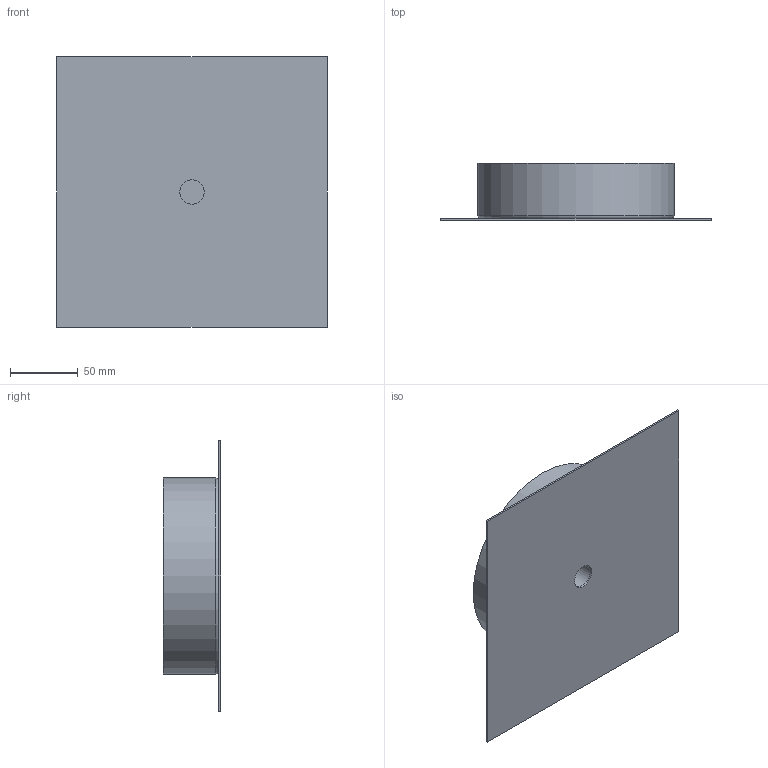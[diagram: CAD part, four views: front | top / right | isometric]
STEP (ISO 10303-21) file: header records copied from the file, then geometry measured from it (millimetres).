
FILE_DESCRIPTION(/* description */ (''),/* implementation_level */ '2;1');
FILE_NAME(/* name */ 'C:\Users\Giulia\Desktop\1740 - NULLA PL.stp',/* time_stamp */ '2015-04-23T17:38:30+02:00',/* author */ ('Giulia'),/* organization */ (''),/* preprocessor_version */ 'ST-DEVELOPER v15.6',/* originating_system */ 'Autodesk Inventor 2015',/* authorisation */ '');
FILE_SCHEMA (('AUTOMOTIVE_DESIGN { 1 0 10303 214 3 1 1 }'));
Length unit declared in the file: centimetre
Products named in the file (1): 1740 - NULLA PL
Bounding box: 200 x 42.5 x 200 mm (x, y, z)
Volume: 731550.1 mm3; surface area: 102427.6 mm2
Topology: 1 solids, 1 shells, 13 faces, 23 edges, 15 vertices
Faces by surface type: plane 9, cylinder 3, torus 1
Full cylindrical faces by diameter (mm): 18 x1, 20 x1, 145 x1
Entity records: 347 total; most frequent: DIRECTION 54, CARTESIAN_POINT 48, ORIENTED_EDGE 38, AXIS2_PLACEMENT_3D 21, EDGE_LOOP 20, EDGE_CURVE 19, VERTEX_POINT 15, STYLED_ITEM 14
